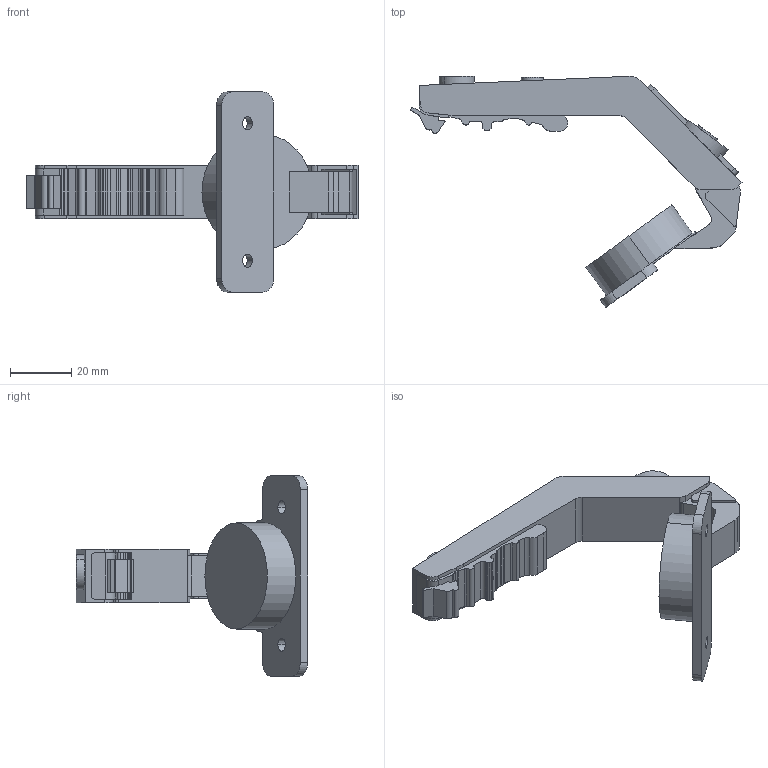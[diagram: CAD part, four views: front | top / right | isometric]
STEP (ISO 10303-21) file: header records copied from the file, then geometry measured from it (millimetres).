
FILE_DESCRIPTION (( 'STEP AP214' ), '1' );
FILE_NAME ('C82H675A-Open.STEP', '2025-07-21T02:56:09', ( '微软用户' ), ( '微软中国' ), 'SwSTEP 2.0', 'SolidWorks 2021', '' );
FILE_SCHEMA (( 'AUTOMOTIVE_DESIGN' ));
Length unit declared in the file: millimetre
Products named in the file (1): C82H675A-Open
Bounding box: 108.74 x 75.75 x 65.6 mm (x, y, z)
Volume: 44480.1 mm3; surface area: 14447.3 mm2
Topology: 1 solids, 1 shells, 162 faces, 464 edges, 310 vertices
Faces by surface type: plane 82, cylinder 80
Entity records: 5382 total; most frequent: CARTESIAN_POINT 973, DIRECTION 934, ORIENTED_EDGE 928, EDGE_CURVE 464, AXIS2_PLACEMENT_3D 319, VERTEX_POINT 310, VECTOR 296, LINE 296
